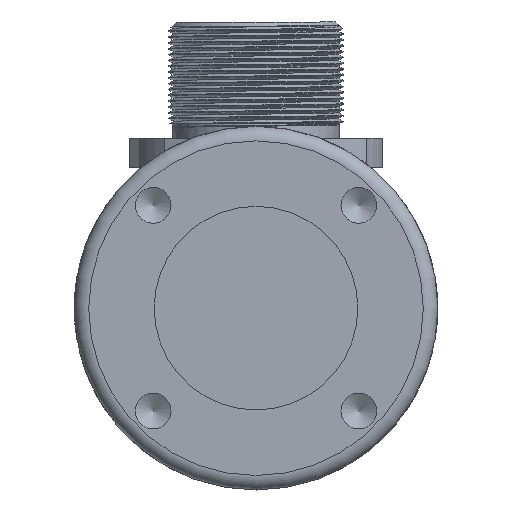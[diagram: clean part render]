
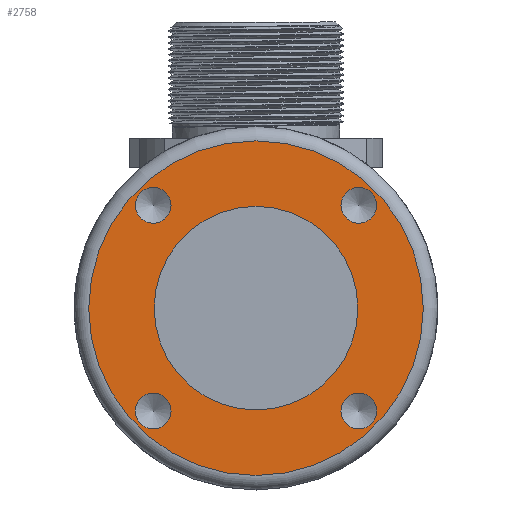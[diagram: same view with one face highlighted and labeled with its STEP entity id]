
A CAD part, left-side view. The second image highlights one B-rep face of the part: STEP entity #2758.
In plain terms, the highlighted planar face has unit normal (-1, 0, 0).
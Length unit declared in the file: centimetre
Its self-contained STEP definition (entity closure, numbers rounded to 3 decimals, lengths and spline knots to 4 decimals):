
#813=CIRCLE('',#2937,1.15);
#814=CIRCLE('',#2939,0.7);
#815=CIRCLE('',#2940,0.123);
#816=CIRCLE('',#2941,0.123);
#817=CIRCLE('',#2942,0.123);
#818=CIRCLE('',#2943,0.123);
#950=VERTEX_POINT('',#3855);
#951=VERTEX_POINT('',#3858);
#952=VERTEX_POINT('',#3860);
#953=VERTEX_POINT('',#3862);
#954=VERTEX_POINT('',#3864);
#955=VERTEX_POINT('',#3866);
#1439=EDGE_CURVE('',#950,#950,#813,.T.);
#1440=EDGE_CURVE('',#951,#951,#814,.T.);
#1441=EDGE_CURVE('',#952,#952,#815,.T.);
#1442=EDGE_CURVE('',#953,#953,#816,.T.);
#1443=EDGE_CURVE('',#954,#954,#817,.T.);
#1444=EDGE_CURVE('',#955,#955,#818,.T.);
#1867=ORIENTED_EDGE('',*,*,#1440,.T.);
#1868=ORIENTED_EDGE('',*,*,#1441,.T.);
#1869=ORIENTED_EDGE('',*,*,#1442,.T.);
#1870=ORIENTED_EDGE('',*,*,#1443,.T.);
#1871=ORIENTED_EDGE('',*,*,#1444,.T.);
#1872=ORIENTED_EDGE('',*,*,#1439,.F.);
#2343=EDGE_LOOP('',(#1867));
#2344=EDGE_LOOP('',(#1868));
#2345=EDGE_LOOP('',(#1869));
#2346=EDGE_LOOP('',(#1870));
#2347=EDGE_LOOP('',(#1871));
#2348=EDGE_LOOP('',(#1872));
#2550=FACE_BOUND('',#2343,.T.);
#2551=FACE_BOUND('',#2344,.T.);
#2552=FACE_BOUND('',#2345,.T.);
#2553=FACE_BOUND('',#2346,.T.);
#2554=FACE_BOUND('',#2347,.T.);
#2555=FACE_BOUND('',#2348,.T.);
#2758=ADVANCED_FACE('',(#2550,#2551,#2552,#2553,#2554,#2555),#14383,.T.);
#2937=AXIS2_PLACEMENT_3D('',#3854,#3230,#3231);
#2938=AXIS2_PLACEMENT_3D('',#3856,#3232,$);
#2939=AXIS2_PLACEMENT_3D('',#3857,#3233,#3234);
#2940=AXIS2_PLACEMENT_3D('',#3859,#3235,#3236);
#2941=AXIS2_PLACEMENT_3D('',#3861,#3237,#3238);
#2942=AXIS2_PLACEMENT_3D('',#3863,#3239,#3240);
#2943=AXIS2_PLACEMENT_3D('',#3865,#3241,#3242);
#3230=DIRECTION('',(1.,0.,0.));
#3231=DIRECTION('',(0.,0.,1.15));
#3232=DIRECTION('',(-1.,0.,0.));
#3233=DIRECTION('',(1.,0.,0.));
#3234=DIRECTION('',(0.,0.,0.7));
#3235=DIRECTION('',(1.,0.,0.));
#3236=DIRECTION('',(0.,0.,0.123));
#3237=DIRECTION('',(1.,0.,0.));
#3238=DIRECTION('',(0.,0.,0.123));
#3239=DIRECTION('',(1.,0.,0.));
#3240=DIRECTION('',(0.,0.,0.123));
#3241=DIRECTION('',(1.,0.,0.));
#3242=DIRECTION('',(0.,0.,0.123));
#3854=CARTESIAN_POINT('',(0.,0.,0.));
#3855=CARTESIAN_POINT('',(0.,0.,-1.15));
#3856=CARTESIAN_POINT('',(0.,0.,-0.45));
#3857=CARTESIAN_POINT('',(0.,0.,0.));
#3858=CARTESIAN_POINT('',(0.,0.,0.7));
#3859=CARTESIAN_POINT('',(0.,0.7071,0.7071));
#3860=CARTESIAN_POINT('',(0.,0.7071,0.8301));
#3861=CARTESIAN_POINT('',(0.,-0.7071,0.7071));
#3862=CARTESIAN_POINT('',(0.,-0.7071,0.8301));
#3863=CARTESIAN_POINT('',(0.,-0.7071,-0.7071));
#3864=CARTESIAN_POINT('',(0.,-0.7071,-0.5842));
#3865=CARTESIAN_POINT('',(0.,0.7071,-0.7071));
#3866=CARTESIAN_POINT('',(0.,0.7071,-0.5842));
#14383=PLANE('',#2938);
